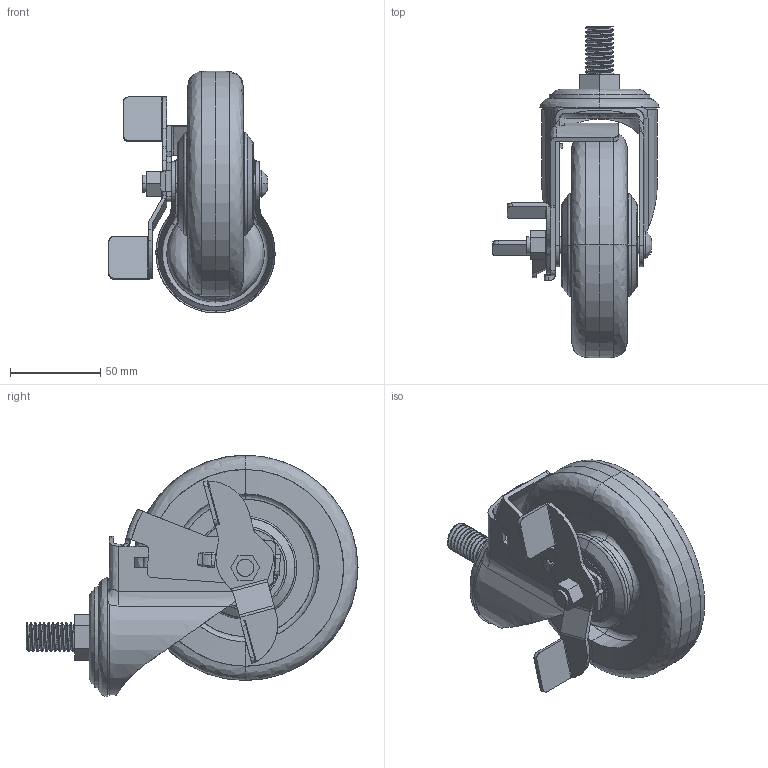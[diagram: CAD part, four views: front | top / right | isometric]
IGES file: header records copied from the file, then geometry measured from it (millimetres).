
Start section: SolidWorks IGES file using analytic representation for surfaces
Global section: file name: C:\Users\KHJ\Desktop\3D\LM5050-PUB(BRAKE).IGS; native system: SolidWorks 2012; preprocessor: SolidWorks 2012; author: KHJ; date: 121128.000845; units: millimetre
Bounding box: 92.16 x 184 x 134.05 mm (x, y, z)
Surface area: 109200.7 mm2 (no closed solid volume)
Topology: 0 solids, 0 shells, 417 faces, 6752 edges, 6750 vertices
Faces by surface type: bspline 282, revolution 135
